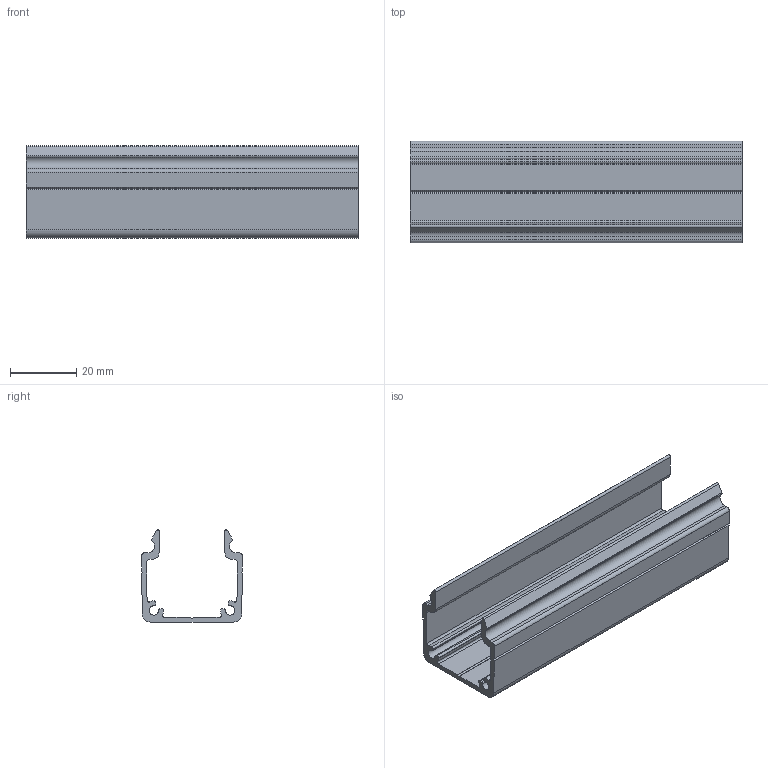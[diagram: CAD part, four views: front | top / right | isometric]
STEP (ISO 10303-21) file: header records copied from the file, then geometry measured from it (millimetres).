
FILE_DESCRIPTION (( 'STEP AP214' ), '1' );
FILE_NAME ('084.101.092.STEP', '2022-03-03T12:38:45', ( '' ), ( '' ), 'SwSTEP 2.0', 'SolidWorks 2018', '' );
FILE_SCHEMA (( 'AUTOMOTIVE_DESIGN' ));
Length unit declared in the file: millimetre
Products named in the file (1): 084.101.092
Bounding box: 100 x 30.54 x 27.78 mm (x, y, z)
Volume: 16059.6 mm3; surface area: 19111.9 mm2
Topology: 1 solids, 1 shells, 73 faces, 213 edges, 142 vertices
Faces by surface type: cylinder 44, plane 29
Entity records: 2489 total; most frequent: DIRECTION 449, CARTESIAN_POINT 429, ORIENTED_EDGE 426, EDGE_CURVE 213, AXIS2_PLACEMENT_3D 162, VERTEX_POINT 142, LINE 125, VECTOR 125
